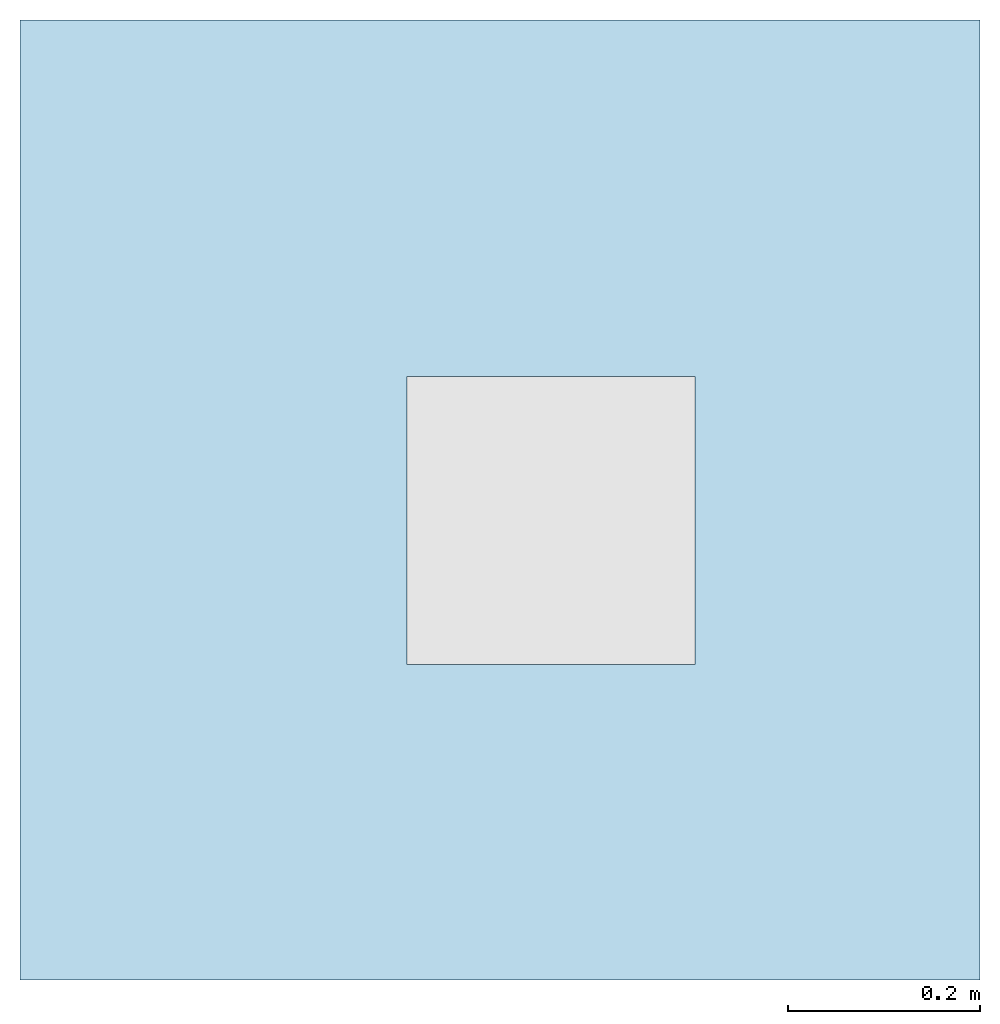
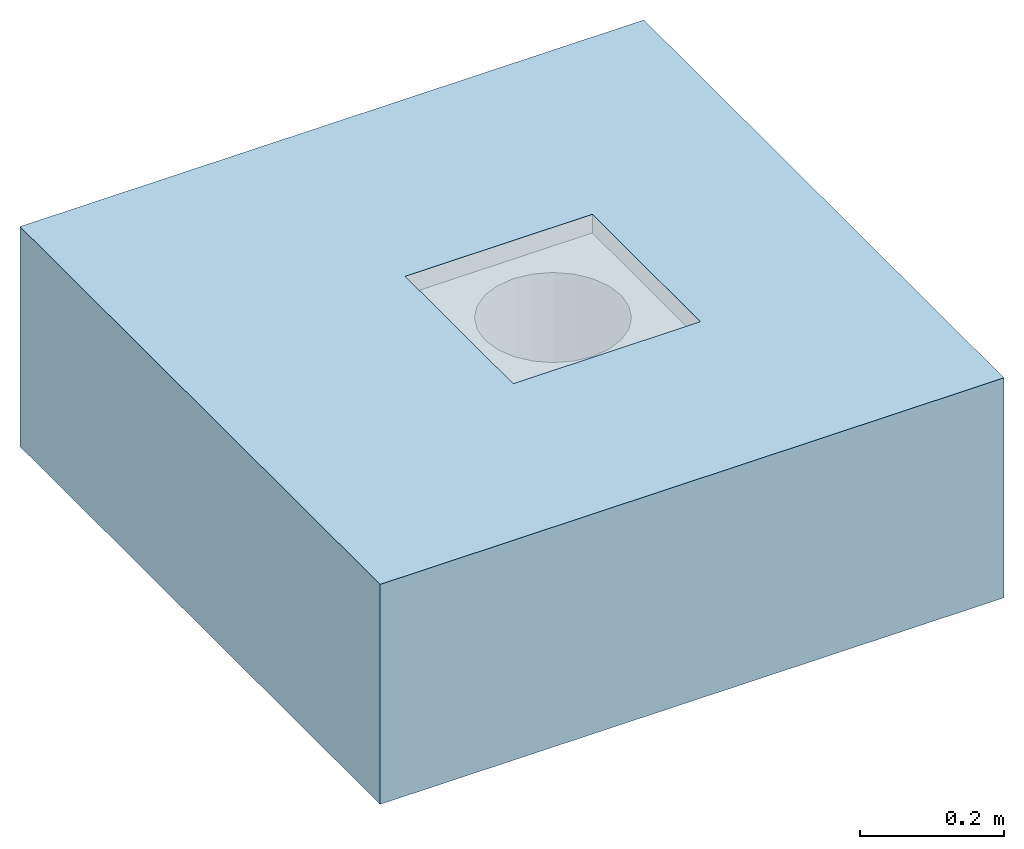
# One storey, incomplete: 1 slab, 1 opening.
"""IFC2X3 building model written with IfcOpenShell, lengths in millimetres."""

from ifc_helpers import new_model, entity, si_unit, converted_unit, derived_unit, direction, frame, frame_2d, origin, place, context, subcontext, project, spatial, rectangle, extrude, faceted_brep, material, layer, layer_set, layer_usage, element, save


model = new_model("IFC2X3")

# Units and contexts
model_context = context("Model", 3, precision=1e-05, world=origin(), true_north=direction((2.0, 6.12303176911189e-17, 1.0)))
context_of_model = context(None, 3, precision=1e-05, world=origin(), true_north=direction((2.0, 6.12303176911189e-17, 1.0)))
body_context = subcontext(model_context, "Body", "Model", "MODEL_VIEW")
ifc_project = project(units=[si_unit("LENGTHUNIT", "METRE", prefix="MILLI"), converted_unit("AREAUNIT", "SQUARE FOOT", entity("IfcRatioMeasure", 0.09290304), si_unit("AREAUNIT", "SQUARE_METRE"), dimensions=[2, 0, 0, 0, 0, 0, 0]), converted_unit("VOLUMEUNIT", "CUBIC FOOT", entity("IfcRatioMeasure", 0.028316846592), si_unit("VOLUMEUNIT", "CUBIC_METRE"), dimensions=[3, 0, 0, 0, 0, 0, 0]), converted_unit("PLANEANGLEUNIT", "DEGREE", entity("IfcRatioMeasure", 0.0174532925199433), si_unit("PLANEANGLEUNIT", "RADIAN"), dimensions=[0, 0, 0, 0, 0, 0, 0]), si_unit("MASSUNIT", "GRAM", prefix="KILO"), si_unit("TIMEUNIT", "SECOND"), si_unit("THERMODYNAMICTEMPERATUREUNIT", "KELVIN"), derived_unit("THERMALTRANSMITTANCEUNIT", [(si_unit("MASSUNIT", "GRAM", prefix="KILO"), 1), (si_unit("THERMODYNAMICTEMPERATUREUNIT", "KELVIN"), -1), (si_unit("TIMEUNIT", "SECOND"), -3)]), derived_unit("VOLUMETRICFLOWRATEUNIT", [(si_unit("LENGTHUNIT", "METRE"), 3), (si_unit("TIMEUNIT", "SECOND"), -1)]), si_unit("POWERUNIT", "WATT")], contexts=[model_context, context_of_model])

# Site, building, storey
site_placement = place(None, origin())
site = spatial("IfcSite", under=ifc_project, at=site_placement, Name="Default", CompositionType="ELEMENT")
building_placement = place(site_placement, origin())
building = spatial("IfcBuilding", under=site, at=building_placement, CompositionType="ELEMENT")
storey_placement = place(building_placement, origin())
storey = spatial("IfcBuildingStorey", under=building, at=storey_placement, Name="Level 1", CompositionType="ELEMENT", Elevation=0.0)

# Slab, opening
ifc_material_1 = material(Name="Plywood, Sheathing")
ifc_layer_1 = layer(ifc_material_1, 68.0)
ifc_material_2 = material(Name="Default Floor")
ifc_layer_2 = layer(ifc_material_2, 304.8)
ifc_layer_set = layer_set([ifc_layer_1, ifc_layer_2], Name="Floor:Generic - 12\"")
ifc_layer_usage = layer_usage(ifc_layer_set, "AXIS3", "POSITIVE", 0.0)
slab_placement = place(storey_placement, frame((-10598.0627721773, 2392.60708548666, -372.8)))
slab = element("IfcSlab", 1, at=slab_placement, inside=storey, material=ifc_layer_usage, Name="Floor:Generic - 12\"", ObjectType="Floor:Generic - 12\"", PredefinedType="FLOOR", context=body_context, shape_type="SweptSolid", body=[
    extrude(rectangle(XDim=1000.0, YDim=1000.0, at=frame_2d((0.0, 0.0), x_axis=(0.0, -1.0))), frame((500.0, 500.0, 372.8), z_axis=(0.0, 0.0, -1.0), x_axis=(-1.0, 0.0, 0.0)), (0.0, 0.0, 1.0), 372.8),
])
opening_placement = place(slab_placement, frame((402.947396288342, 328.448225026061, 75.8000000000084)))
element("IfcOpeningElement", 2, at=opening_placement, cuts=slab, ObjectType="Recess", context=body_context, shape_type="Brep", body=[
    faceted_brep([(300.0, 0.0, 297.0), (0.0, 0.0, 297.0), (0.0, 0.0, 265.416085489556), (300.0, 0.0, 265.416085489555), (300.0, 300.0, 265.416085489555), (0.0, 300.0, 265.416085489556), (300.0, 300.0, 297.0), (0.0, 300.0, 297.0), (95.8396418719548, 55.6032309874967, 265.416085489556), (122.128365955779, 44.714084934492, 265.416085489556), (73.2650027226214, 72.9253608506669, 265.416085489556), (150.339641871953, 41.0, 265.416085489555), (41.3396418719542, 150.0, 265.416085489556), (45.0537268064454, 121.788724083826, 265.416085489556), (55.9428728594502, 95.5000000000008, 265.416085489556), (178.550917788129, 44.7140849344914, 265.416085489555), (204.839641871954, 55.6032309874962, 265.416085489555), (227.414281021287, 72.9253608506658, 265.416085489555), (244.736410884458, 95.4999999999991, 265.416085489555), (255.625556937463, 121.788724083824, 265.416085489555), (259.339641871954, 150.0, 265.416085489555), (55.9428728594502, 204.5, 265.416085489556), (45.0537268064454, 178.211275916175, 265.416085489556), (73.2650027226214, 227.074639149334, 265.416085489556), (95.8396418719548, 244.396769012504, 265.416085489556), (122.128365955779, 255.285915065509, 265.416085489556), (150.339641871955, 259.0, 265.416085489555), (255.625556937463, 178.211275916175, 265.416085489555), (244.736410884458, 204.5, 265.416085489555), (204.839641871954, 244.396769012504, 265.416085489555), (178.550917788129, 255.285915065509, 265.416085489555), (227.414281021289, 227.074639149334, 265.416085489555), (204.839641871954, 244.396769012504, 99.082), (178.24782123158, 198.795970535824, 99.082), (178.550917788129, 255.285915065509, 99.082), (227.414281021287, 227.074639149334, 99.082), (189.845800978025, 189.896527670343, 99.082), (150.339641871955, 259.0, 99.082), (164.74168775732, 204.390394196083, 99.082), (150.24782123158, 206.298547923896, 99.082), (244.736410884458, 204.5, 99.082), (198.745243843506, 178.298547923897, 99.082), (255.625556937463, 178.211275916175, 99.082), (206.247821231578, 150.298547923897, 99.082), (204.339667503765, 164.792414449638, 99.082), (259.339641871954, 150.0, 99.082), (122.128365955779, 255.285915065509, 99.082), (135.75395470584, 204.390394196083, 99.082), (95.8396418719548, 244.396769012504, 99.082), (122.24782123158, 198.795970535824, 99.082), (110.649841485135, 189.896527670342, 99.082), (73.2650027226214, 227.074639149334, 99.082), (55.9428728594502, 204.5, 99.082), (101.750398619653, 178.298547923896, 99.082), (96.1559749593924, 164.792414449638, 99.082), (45.0537268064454, 178.211275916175, 99.082), (94.2478212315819, 150.298547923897, 99.082), (41.3396418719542, 150.0, 99.082), (255.625556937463, 121.788724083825, 99.082), (204.339667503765, 135.804681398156, 99.082), (198.745243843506, 122.298547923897, 99.082), (244.736410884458, 95.4999999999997, 99.082), (189.845800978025, 110.700568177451, 99.082), (227.414281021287, 72.9253608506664, 99.082), (178.247821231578, 101.801125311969, 99.082), (204.839641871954, 55.6032309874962, 99.082), (164.74168775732, 96.2067016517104, 99.082), (178.550917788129, 44.714084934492, 99.082), (150.339641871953, 41.0, 99.082), (150.24782123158, 94.2985479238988, 99.082), (55.9428728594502, 95.5000000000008, 99.082), (101.750398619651, 122.298547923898, 99.082), (110.649841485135, 110.700568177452, 99.082), (45.0537268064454, 121.788724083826, 99.082), (96.1559749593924, 135.804681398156, 99.082), (122.24782123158, 101.80112531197, 99.082), (73.2650027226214, 72.9253608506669, 99.082), (135.75395470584, 96.206701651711, 99.082), (122.128365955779, 44.714084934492, 99.082), (95.8396418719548, 55.6032309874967, 99.082), (150.24782123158, 206.298547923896, 0.0), (164.74168775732, 204.390394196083, 0.0), (178.247821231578, 198.795970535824, 0.0), (122.24782123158, 198.795970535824, 0.0), (198.745243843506, 178.298547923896, 0.0), (204.339667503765, 164.792414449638, 0.0), (189.845800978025, 189.896527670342, 0.0), (96.1559749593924, 164.792414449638, 0.0), (110.649841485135, 189.896527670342, 0.0), (135.75395470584, 204.390394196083, 0.0), (101.750398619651, 178.298547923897, 0.0), (94.2478212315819, 150.298547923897, 0.0), (164.74168775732, 96.2067016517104, 0.0), (204.339667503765, 135.804681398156, 0.0), (189.845800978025, 110.700568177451, 0.0), (198.745243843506, 122.298547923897, 0.0), (178.247821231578, 101.801125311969, 0.0), (150.24782123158, 94.2985479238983, 0.0), (101.750398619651, 122.298547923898, 0.0), (122.24782123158, 101.80112531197, 0.0), (110.649841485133, 110.700568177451, 0.0), (96.1559749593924, 135.804681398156, 0.0), (135.75395470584, 96.2067016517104, 0.0), (206.247821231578, 150.298547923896, 0.0)], [[[0, 1, 2]], [[2, 3, 0]], [[4, 5, 6]], [[7, 6, 5]], [[1, 0, 6]], [[6, 7, 1]], [[0, 3, 6]], [[4, 6, 3]], [[2, 1, 5]], [[7, 5, 1]], [[2, 8, 9]], [[8, 2, 10]], [[2, 9, 11]], [[12, 13, 2]], [[14, 10, 2]], [[13, 14, 2]], [[2, 5, 12]], [[3, 11, 15]], [[11, 3, 2]], [[3, 15, 16]], [[16, 17, 3]], [[18, 19, 3]], [[17, 18, 3]], [[3, 19, 20]], [[21, 22, 5]], [[23, 21, 5]], [[24, 5, 25]], [[5, 24, 23]], [[26, 25, 5]], [[5, 4, 26]], [[22, 12, 5]], [[27, 28, 4]], [[20, 27, 4]], [[29, 30, 4]], [[31, 4, 28]], [[4, 31, 29]], [[30, 26, 4]], [[20, 4, 3]], [[32, 33, 34]], [[35, 36, 32]], [[37, 34, 38]], [[33, 38, 34]], [[37, 38, 39]], [[35, 40, 41]], [[42, 43, 44]], [[43, 42, 45]], [[44, 41, 40]], [[33, 32, 36]], [[36, 35, 41]], [[42, 44, 40]], [[46, 39, 47]], [[39, 46, 37]], [[48, 46, 49]], [[48, 50, 51]], [[52, 51, 53]], [[47, 49, 46]], [[54, 52, 53]], [[53, 51, 50]], [[55, 54, 56]], [[55, 52, 54]], [[55, 56, 57]], [[50, 48, 49]], [[45, 58, 59]], [[59, 58, 60]], [[61, 62, 60]], [[63, 64, 62]], [[61, 60, 58]], [[63, 65, 64]], [[64, 65, 66]], [[66, 67, 68]], [[67, 66, 65]], [[66, 68, 69]], [[63, 62, 61]], [[70, 71, 72]], [[73, 71, 70]], [[57, 74, 73]], [[57, 56, 74]], [[73, 74, 71]], [[72, 75, 76]], [[77, 69, 78]], [[78, 69, 68]], [[77, 78, 79]], [[76, 70, 72]], [[75, 79, 76]], [[75, 77, 79]], [[59, 43, 45]], [[13, 73, 70]], [[76, 14, 70]], [[8, 79, 78]], [[76, 79, 10]], [[9, 78, 68]], [[73, 12, 57]], [[73, 13, 12]], [[70, 14, 13]], [[76, 10, 14]], [[8, 10, 79]], [[78, 9, 8]], [[68, 11, 9]], [[15, 67, 65]], [[63, 16, 65]], [[18, 61, 58]], [[63, 61, 17]], [[19, 58, 45]], [[67, 15, 11]], [[65, 16, 15]], [[63, 17, 16]], [[61, 18, 17]], [[19, 18, 58]], [[45, 20, 19]], [[67, 11, 68]], [[45, 42, 20]], [[29, 32, 34]], [[32, 31, 35]], [[30, 34, 37]], [[42, 28, 27]], [[27, 20, 42]], [[40, 31, 28]], [[40, 35, 31]], [[31, 32, 29]], [[34, 30, 29]], [[40, 28, 42]], [[37, 26, 30]], [[25, 46, 48]], [[51, 24, 48]], [[21, 52, 55]], [[51, 52, 23]], [[22, 55, 57]], [[46, 25, 26]], [[48, 24, 25]], [[51, 23, 24]], [[52, 21, 23]], [[22, 21, 55]], [[57, 12, 22]], [[46, 26, 37]], [[80, 81, 82]], [[83, 80, 82]], [[84, 85, 82]], [[84, 82, 86]], [[83, 82, 85]], [[83, 87, 88]], [[83, 89, 80]], [[88, 87, 90]], [[87, 83, 91]], [[85, 91, 83]], [[85, 92, 91]], [[85, 93, 94]], [[94, 93, 95]], [[96, 92, 85]], [[85, 94, 96]], [[91, 92, 97]], [[98, 99, 100]], [[99, 98, 101]], [[99, 97, 102]], [[101, 91, 99]], [[97, 99, 91]], [[93, 85, 103]], [[74, 101, 98]], [[100, 71, 98]], [[75, 99, 102]], [[100, 99, 72]], [[77, 102, 97]], [[101, 56, 91]], [[101, 74, 56]], [[98, 71, 74]], [[100, 72, 71]], [[75, 72, 99]], [[102, 77, 75]], [[97, 69, 77]], [[66, 92, 96]], [[94, 64, 96]], [[60, 95, 93]], [[94, 95, 62]], [[59, 93, 103]], [[92, 66, 69]], [[96, 64, 66]], [[94, 62, 64]], [[95, 60, 62]], [[59, 60, 93]], [[103, 43, 59]], [[92, 69, 97]], [[43, 103, 85]], [[41, 85, 84]], [[33, 82, 81]], [[38, 81, 80]], [[85, 41, 44]], [[44, 43, 85]], [[86, 36, 41]], [[86, 82, 36]], [[36, 82, 33]], [[81, 38, 33]], [[86, 41, 84]], [[80, 39, 38]], [[47, 89, 83]], [[88, 49, 83]], [[53, 90, 87]], [[88, 90, 50]], [[54, 87, 91]], [[89, 47, 39]], [[83, 49, 47]], [[88, 50, 49]], [[90, 53, 50]], [[54, 53, 87]], [[91, 56, 54]], [[89, 39, 80]]]),
])

save(model, "model.ifc")
